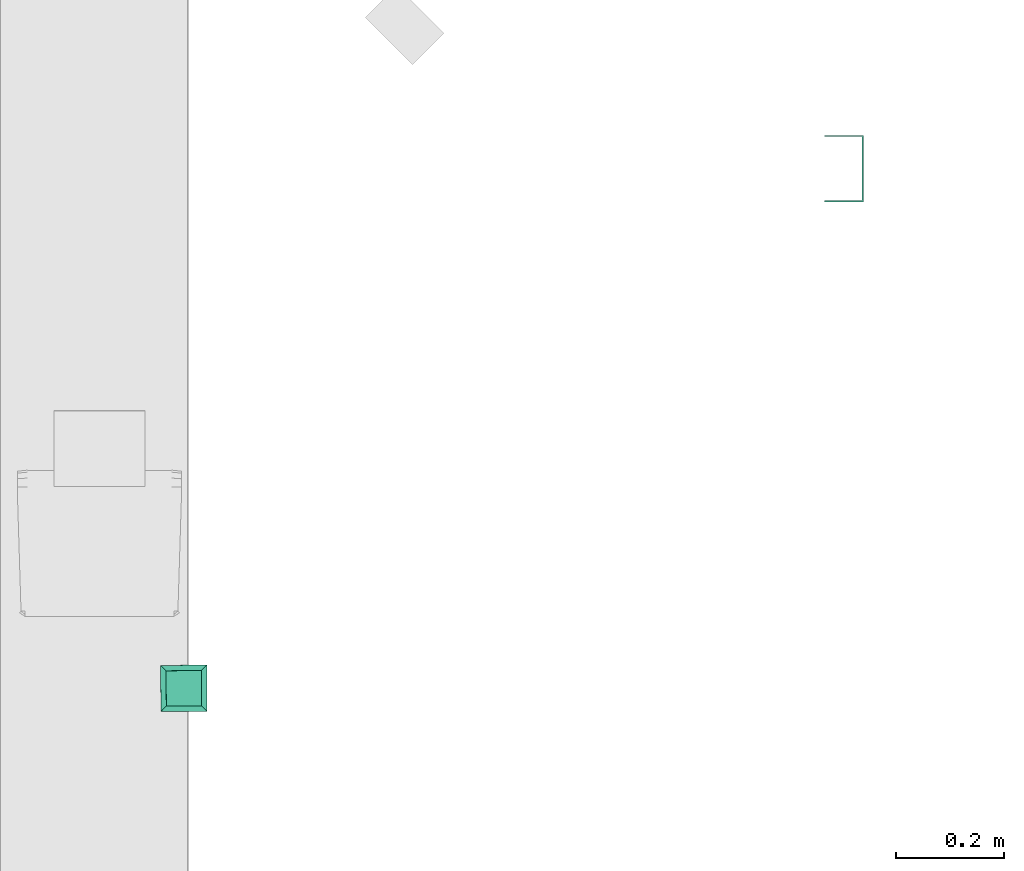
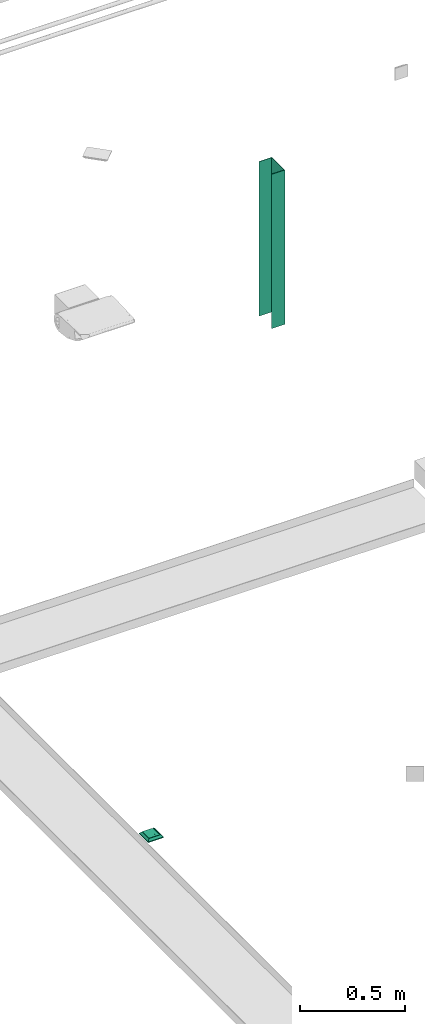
# One storey, part 22 of 24: 1 flow segment, 1 flow terminal.
"""IFC2X3 building model written with IfcOpenShell, lengths in millimetres."""

import ifcopenshell
import ifcopenshell.guid

model = None  # the IFC model being written
_history = None  # IfcOwnerHistory: only IFC2X3 demands one
_inside = {}  # id of a spatial element -> (the spatial element, [elements in it])
_under = {}  # id of a project, library or spatial element -> (it, [spatial elements below it])
_declared = {}  # id of a project -> (the project, [libraries it declares])
_typed = {}  # id of a type object -> (the type object, [elements of that type])
_made_of = {}  # id of a material, layer set ... -> (it, [elements and type objects made of it])


def new_model(schema):
    """Start an empty IFC model of exactly this schema.

    Asked for "IFC4X3", IfcOpenShell would pick the latest addendum, in which some entities
    have other attributes; the version numbers below select the first issue.
    IFC2X3 requires an IfcOwnerHistory on every rooted entity: one is made here for all.
    """
    global model, _history
    if schema == "IFC4X3":
        model = ifcopenshell.file(schema_version=(4, 3, 0, 0))
    else:
        model = ifcopenshell.file(schema=schema)
    _inside.clear()
    _under.clear()
    _declared.clear()
    _typed.clear()
    _made_of.clear()
    _history = None
    if model.schema == "IFC2X3":
        org = make("IfcOrganization", Name="unknown")
        user = make(
            "IfcPersonAndOrganization",
            ThePerson=make("IfcPerson", FamilyName="unknown"),
            TheOrganization=org,
        )
        app = make(
            "IfcApplication",
            ApplicationDeveloper=org,
            Version="unknown",
            ApplicationFullName="unknown",
            ApplicationIdentifier="unknown",
        )
        _history = make(
            "IfcOwnerHistory",
            OwningUser=user,
            OwningApplication=app,
            ChangeAction="ADDED",
            CreationDate=0,
        )
    return model


def make(cls, **values):
    """One entity of the class cls with the attributes given. An attribute that is None is left unset."""
    return model.create_entity(
        cls, **{name: value for name, value in values.items() if value is not None}
    )


def entity(cls, *values):
    """Any entity or typed value of the class cls, its attributes in the order of the schema. None: left unset."""
    e = model.create_entity(cls)
    for i, value in enumerate(values):
        if value is not None:
            e[i] = value
    return e


def rooted(cls, **values):
    """An entity with a GlobalId (a new one), such as an element, a storey or a relation."""
    return make(cls, GlobalId=ifcopenshell.guid.new(), OwnerHistory=_history, **values)


def si_unit(unit_type, name, prefix=None):
    """IfcSIUnit, for example si_unit("LENGTHUNIT", "METRE", prefix="MILLI")."""
    return make("IfcSIUnit", UnitType=unit_type, Prefix=prefix, Name=name)


def converted_unit(unit_type, name, factor, base, dimensions=None, offset=None):
    """IfcConversionBasedUnit, such as the inch: factor (a typed value) times the base unit."""
    return make(
        "IfcConversionBasedUnit"
        if offset is None
        else "IfcConversionBasedUnitWithOffset",
        ConversionOffset=offset,
        Dimensions=None
        if dimensions is None
        else entity("IfcDimensionalExponents", *dimensions),
        UnitType=unit_type,
        Name=name,
        ConversionFactor=make(
            "IfcMeasureWithUnit", ValueComponent=factor, UnitComponent=base
        ),
    )


def derived_unit(unit_type, elements):
    """IfcDerivedUnit: a product of units, each with its exponent."""
    return make(
        "IfcDerivedUnit",
        Elements=[
            make("IfcDerivedUnitElement", Unit=unit, Exponent=power)
            for unit, power in elements
        ],
        UnitType=unit_type,
    )


def assignment(units):
    """IfcUnitAssignment: the units of a project."""
    return None if units is None else make("IfcUnitAssignment", Units=units)


def point(xyz):
    """IfcCartesianPoint."""
    return None if xyz is None else make("IfcCartesianPoint", Coordinates=xyz)


def direction(xyz):
    """IfcDirection."""
    return None if xyz is None else make("IfcDirection", DirectionRatios=xyz)


def frame(location, z_axis=None, x_axis=None):
    """IfcAxis2Placement3D, a coordinate frame: its origin and axes. An axis left out is left unset."""
    return make(
        "IfcAxis2Placement3D",
        Location=point(location),
        Axis=direction(z_axis),
        RefDirection=direction(x_axis),
    )


def origin_with_axes():
    """The frame at (0, 0, 0) with the z axis (0, 0, 1) and the x axis (1, 0, 0) written out."""
    return frame((0.0, 0.0, 0.0), z_axis=(0.0, 0.0, 1.0), x_axis=(1.0, 0.0, 0.0))


def place(relative_to, where):
    """IfcLocalPlacement: puts the frame where relative to a parent placement (None: the world)."""
    return make(
        "IfcLocalPlacement", PlacementRelTo=relative_to, RelativePlacement=where
    )


def context(
    kind, dimensions, precision=None, world=None, true_north=None, identifier=None
):
    """IfcGeometricRepresentationContext, for example the 3D "Model" context."""
    return make(
        "IfcGeometricRepresentationContext",
        ContextIdentifier=identifier,
        ContextType=kind,
        CoordinateSpaceDimension=dimensions,
        Precision=precision,
        WorldCoordinateSystem=world,
        TrueNorth=true_north,
    )


def subcontext(parent, identifier, kind, view, scale=None):
    """IfcGeometricRepresentationSubContext, for example "Body" below "Model"."""
    return make(
        "IfcGeometricRepresentationSubContext",
        ContextIdentifier=identifier,
        ContextType=kind,
        ParentContext=parent,
        TargetScale=scale,
        TargetView=view,
    )


def project(units=None, contexts=None):
    """IfcProject with its units and contexts."""
    return rooted(
        "IfcProject",
        Name="project",
        RepresentationContexts=contexts,
        UnitsInContext=assignment(units),
    )


def spatial(cls, under=None, at=None, **own):
    """A site, building, storey or space (cls), placed at a placement, below another one or the project."""
    s = rooted(cls, ObjectPlacement=at, **own)
    if under is not None:
        _under.setdefault(under.id(), (under, []))[1].append(s)
    return s


def faces_of(points, faces, orient=None, outer=None):
    """IfcFace entities. A face is a list of loops; a loop is a list of indices into points, from 0.

    orient and outer hold one flag for each loop. By default every Orientation is true, the
    first loop of a face is its IfcFaceOuterBound and the others are IfcFaceBound.
    """
    made = []
    for i, loops in enumerate(faces):
        bounds = []
        for j, loop in enumerate(loops):
            is_outer = j == 0 if outer is None else outer[i][j]
            bounds.append(
                make(
                    "IfcFaceOuterBound" if is_outer else "IfcFaceBound",
                    Bound=make("IfcPolyLoop", Polygon=[points[k] for k in loop]),
                    Orientation=True if orient is None else orient[i][j],
                )
            )
        made.append(make("IfcFace", Bounds=bounds))
    return made


def open_shell(faces, orient=None, outer=None):
    """The faces of one IfcOpenShell. surface_model builds it on its shared points."""
    return ("IfcOpenShell", faces, orient, outer)


def surface_model(cls, points, shells):
    """IfcFaceBasedSurfaceModel or IfcShellBasedSurfaceModel (cls): surfaces that need not close."""
    shared = [point(p) for p in points]
    made = [make(c, CfsFaces=faces_of(shared, fs, o, b)) for c, fs, o, b in shells]
    if cls == "IfcFaceBasedSurfaceModel":
        return make(cls, FbsmFaces=made)
    return make(cls, SbsmBoundary=made)


def shape(context_of_items, identifier, shape_type, items):
    """IfcShapeRepresentation: the items that make up one representation, for example the "Body"."""
    return make(
        "IfcShapeRepresentation",
        ContextOfItems=context_of_items,
        RepresentationIdentifier=identifier,
        RepresentationType=shape_type,
        Items=items,
    )


def source(mapping_origin, context_of_items, identifier, shape_type, items):
    """IfcRepresentationMap: a shape defined once, which mapped items show again and again."""
    return make(
        "IfcRepresentationMap",
        MappingOrigin=mapping_origin,
        MappedRepresentation=shape(context_of_items, identifier, shape_type, items),
    )


def transform(
    local_origin,
    x_axis=None,
    y_axis=None,
    z_axis=None,
    scale=None,
    scale2=None,
    scale3=None,
    uniform=True,
):
    """IfcCartesianTransformationOperator3D, or its non-uniform kind. x_axis, y_axis, z_axis: its Axis1, 2, 3."""
    if uniform:
        return make(
            "IfcCartesianTransformationOperator3D",
            Axis1=direction(x_axis),
            Axis2=direction(y_axis),
            LocalOrigin=point(local_origin),
            Scale=scale,
            Axis3=direction(z_axis),
        )
    return make(
        "IfcCartesianTransformationOperator3DnonUniform",
        Axis1=direction(x_axis),
        Axis2=direction(y_axis),
        LocalOrigin=point(local_origin),
        Scale=scale,
        Axis3=direction(z_axis),
        Scale2=scale2,
        Scale3=scale3,
    )


def mapped(mapping_source, mapping_target):
    """IfcMappedItem: shows the shape of a source again, moved by a transform."""
    return make(
        "IfcMappedItem", MappingSource=mapping_source, MappingTarget=mapping_target
    )


def made_of(thing, what):
    """Note that an element or type object is made of a material, layer set ...; save() writes the relation."""
    if what is not None:
        _made_of.setdefault(what.id(), (what, []))[1].append(thing)
    return thing


def type_object(cls, material=None, **own):
    """A type object (cls), such as IfcWallType, which elements share."""
    return made_of(rooted(cls, **own), material)


def element(
    cls,
    number,
    at=None,
    inside=None,
    cuts=None,
    type_object=None,
    material=None,
    context=None,
    identifier="Body",
    shape_type=None,
    held_by="IfcProductDefinitionShape",
    body=None,
    shapes=None,
    **own,
):
    """One element of the class cls, such as IfcWall. Its Tag is "e" and its number.

    at: its placement. inside: the storey or other place that contains it. cuts: it is an
    opening in that element (IfcRelVoidsElement). A single representation is given by context,
    identifier, shape_type and body (its items); several are given by shapes. held_by: the class
    of the entity that holds the representations. save() writes the other relations.
    """
    e = rooted(cls, Tag="e%d" % number, ObjectPlacement=at, **own)
    if body is not None:
        shapes = [shape(context, identifier, shape_type, body)]
    if shapes is not None:
        e.Representation = make(held_by, Representations=shapes)
    if inside is not None:
        _inside.setdefault(inside.id(), (inside, []))[1].append(e)
    if cuts is not None:
        rooted(
            "IfcRelVoidsElement", RelatingBuildingElement=cuts, RelatedOpeningElement=e
        )
    if type_object is not None:
        _typed.setdefault(type_object.id(), (type_object, []))[1].append(e)
    return made_of(e, material)


def aggregate(whole, parts):
    """IfcRelAggregates: a whole, such as a stair, and the parts it consists of."""
    return rooted("IfcRelAggregates", RelatingObject=whole, RelatedObjects=parts)


def save(model, path):
    """Write the relations noted so far, then the file.

    IfcRelAggregates (storeys below a building ...), IfcRelContainedInSpatialStructure (elements
    in a storey), IfcRelDefinesByType, IfcRelAssociatesMaterial and IfcRelDeclares: one each for
    every whole, place, type object, material and project.
    """
    for whole, parts in _under.values():
        aggregate(whole, parts)
    for where, things in _inside.values():
        rooted(
            "IfcRelContainedInSpatialStructure",
            RelatedElements=things,
            RelatingStructure=where,
        )
    for kind, things in _typed.values():
        rooted("IfcRelDefinesByType", RelatedObjects=things, RelatingType=kind)
    for what, things in _made_of.values():
        rooted("IfcRelAssociatesMaterial", RelatedObjects=things, RelatingMaterial=what)
    for by, libraries in _declared.values():
        rooted("IfcRelDeclares", RelatingContext=by, RelatedDefinitions=libraries)
    model.write(path)


model = new_model("IFC2X3")

# Units and contexts
model_context = context("Model", 3, precision=0.01, world=frame((0.0, 4.29681676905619e-09, 0.0)), true_north=direction((4.01073788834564e-13, 1.0)))
plan_context = context("Plan", 3, precision=0.01, world=frame((0.0, 4.29681676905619e-09, 0.0)), true_north=direction((4.01073788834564e-13, 1.0)))
body_context = subcontext(model_context, "Body", "Model", "MODEL_VIEW")
ifc_project = project(units=[converted_unit("PLANEANGLEUNIT", "DEGREE", entity("IfcPositiveLengthMeasure", 0.0174532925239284), si_unit("PLANEANGLEUNIT", "RADIAN"), dimensions=[0, 0, 0, 0, 0, 0, 0]), si_unit("AREAUNIT", "SQUARE_METRE"), si_unit("LENGTHUNIT", "METRE", prefix="MILLI"), si_unit("MASSUNIT", "GRAM", prefix="KILO"), si_unit("POWERUNIT", "WATT"), si_unit("PRESSUREUNIT", "PASCAL"), si_unit("FORCEUNIT", "NEWTON", prefix="KILO"), si_unit("ELECTRICVOLTAGEUNIT", "VOLT"), si_unit("ELECTRICCURRENTUNIT", "AMPERE"), si_unit("THERMODYNAMICTEMPERATUREUNIT", "DEGREE_CELSIUS"), si_unit("TIMEUNIT", "SECOND"), si_unit("VOLUMEUNIT", "CUBIC_METRE"), derived_unit("LINEARVELOCITYUNIT", [(si_unit("LENGTHUNIT", "METRE"), 1), (si_unit("TIMEUNIT", "SECOND"), -1)]), derived_unit("VOLUMETRICFLOWRATEUNIT", [(si_unit("VOLUMEUNIT", "CUBIC_METRE"), 1), (si_unit("TIMEUNIT", "SECOND"), -1)]), derived_unit("THERMALTRANSMITTANCEUNIT", [(si_unit("POWERUNIT", "WATT"), 1), (si_unit("THERMODYNAMICTEMPERATUREUNIT", "KELVIN"), -1), (si_unit("AREAUNIT", "SQUARE_METRE"), -1)]), derived_unit("SOUNDPRESSUREUNIT", [(si_unit("PRESSUREUNIT", "PASCAL"), 1)])], contexts=[model_context, plan_context])

# Site, building, storey
site_placement = place(None, frame((0.0, -4.29681676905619e-09, 0.0), z_axis=(0.0, 0.0, 1.0), x_axis=(1.0, 0.0, 0.0)))
site = spatial("IfcSite", under=ifc_project, at=site_placement, Name="ENGM", CompositionType="ELEMENT")
building_placement = place(site_placement, frame((0.0, 4.29681676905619e-09, 0.0), z_axis=(0.0, 0.0, 1.0), x_axis=(1.0, 0.0, 0.0)))
building = spatial("IfcBuilding", under=site, at=building_placement, Name="TH", CompositionType="ELEMENT")
storey_placement = place(building_placement, frame((0.0, 0.0, 210200.0), z_axis=(0.0, 0.0, 1.0), x_axis=(1.0, 0.0, 0.0)))
storey = spatial("IfcBuildingStorey", under=building, at=storey_placement, Name="Nivå F - 0,7 m", CompositionType="ELEMENT", Elevation=210200.0)

# Flow segment
cable_carrier_segment_type = type_object("IfcCableCarrierSegmentType", Name="Veggkanal", PredefinedType="CABLETRAYSEGMENT")
shared_shape_1 = source(origin_with_axes(), body_context, "Body", "SurfaceModel", [
    surface_model("IfcShellBasedSurfaceModel", [(0.0, -58.96, -33.46), (0.0, -61.5, 36.0), (0.0, -58.96, 36.0), (0.0, 58.96, -33.46), (0.0, 58.96, 36.0), (0.0, 61.5, 36.0), (0.0, -61.5, -36.0), (0.0, 61.5, -36.0), (900.0, -58.96, 36.0), (900.0, -61.5, 36.0), (900.0, -58.96, -33.46), (900.0, 61.5, 36.0), (900.0, 58.96, 36.0), (900.0, 58.96, -33.46), (900.0, -61.5, -36.0), (900.0, 61.5, -36.0)], [open_shell([[[0, 1, 2]], [[3, 4, 5]], [[3, 6, 0]], [[1, 0, 6]], [[5, 7, 3]], [[6, 3, 7]], [[8, 9, 10]], [[11, 12, 13]], [[10, 14, 13]], [[14, 10, 9]], [[13, 15, 11]], [[15, 13, 14]], [[1, 6, 9]], [[14, 9, 6]], [[2, 1, 9]], [[9, 8, 2]], [[0, 2, 8]], [[8, 10, 0]], [[3, 0, 13]], [[10, 13, 0]], [[4, 3, 13]], [[13, 12, 4]], [[5, 4, 12]], [[12, 11, 5]], [[7, 5, 15]], [[11, 15, 5]], [[6, 7, 15]], [[15, 14, 6]]])]),
])
flow_segment_placement = place(storey_placement, frame((900872.37791, 481236.67065, 2000.0), z_axis=(-1.0, 0.0, 0.0), x_axis=(0.0, 0.0, 1.0)))
element("IfcFlowSegment", 1, at=flow_segment_placement, inside=storey, type_object=cable_carrier_segment_type, Name="Veggkanal", context=body_context, shape_type="MappedRepresentation", body=[
    mapped(shared_shape_1, transform((0.0, 0.0, 0.0), scale=1.0)),
])

# Flow terminal
outlet_type = type_object("IfcOutletType", Name="Datauttak dobbel Gulv - IKT", PredefinedType="COMMUNICATIONSOUTLET")
shared_shape_2 = source(origin_with_axes(), body_context, "Body", "SurfaceModel", [
    surface_model("IfcShellBasedSurfaceModel", [(-42.5, 42.4761, 7.09014), (-32.5, 32.48658, 17.10061), (42.5, 42.4761, 7.09014), (32.5, 32.48658, 17.10061), (42.5, 42.33453, 6.94887), (32.5, 32.34501, 16.95933), (-32.5, 32.34501, 16.95933), (-42.5, 42.33453, 6.94887), (-42.5, -42.524, 7.03773), (-32.5, -32.51353, 17.02725), (32.5, -32.51353, 17.02725), (42.5, -42.524, 7.03773), (42.5, -42.66527, 7.1793), (32.5, -32.65481, 17.16882), (-42.5, -42.66527, 7.1793), (-32.5, -32.65481, 17.16882), (32.57071, -32.5841, 17.16875), (42.57071, -42.59456, 7.17922), (32.57071, 32.41587, 17.10068), (42.57071, 42.40539, 7.09021), (32.42929, 32.41572, 16.95926), (42.42929, 42.40524, 6.94879), (32.42929, -32.58424, 17.02733), (42.42929, -42.59471, 7.0378), (-32.42929, -32.58424, 17.02733), (-42.42929, -42.59471, 7.0378), (-32.42929, 32.41572, 16.95926), (-42.42929, 42.40524, 6.94879), (-32.57071, 32.41587, 17.10068), (-42.57071, 42.40539, 7.09021), (-42.57071, -42.59456, 7.17922), (-32.57071, -32.5841, 17.16875), (-42.4, -42.59463, 7.10851), (-42.4, -42.59987, 2.10852), (-42.4, 42.40532, 7.0195), (-42.4, 42.40008, 2.01951), (-42.6, 42.40532, 7.0195), (-42.6, 42.40008, 2.01951), (-42.6, -42.59463, 7.10851), (-42.6, -42.59987, 2.10852), (42.5, -42.69987, 2.10862), (42.5, -42.69464, 7.10862), (-42.5, -42.69987, 2.10862), (-42.5, -42.69464, 7.10862), (-42.5, -42.49987, 2.10841), (-42.5, -42.49464, 7.10841), (42.5, -42.49987, 2.10841), (42.5, -42.49464, 7.10841), (42.6, -42.59463, 7.10851), (42.6, -42.59987, 2.10852), (42.6, 42.40532, 7.0195), (42.6, 42.40008, 2.01951), (42.4, 42.40532, 7.0195), (42.4, 42.40008, 2.01951), (42.4, -42.59463, 7.10851), (42.4, -42.59987, 2.10852), (42.5, -42.59998, 2.00852), (-42.5, -42.59998, 2.00852), (-42.5, 42.39998, 1.91951), (42.5, 42.39998, 1.91951), (42.5, 42.40019, 2.11951), (-42.5, 42.40019, 2.11951), (-42.5, -42.59977, 2.20852), (42.5, -42.59977, 2.20852), (42.5, 42.30008, 2.01961), (42.5, 42.30532, 7.01961), (-42.5, 42.30008, 2.01961), (-42.5, 42.30532, 7.01961), (-42.5, 42.50008, 2.0194), (-42.5, 42.50532, 7.0194), (42.5, 42.50008, 2.0194), (42.5, 42.50532, 7.0194), (32.5, -32.58427, 16.99804), (-32.5, -32.58427, 16.99804), (-32.5, 32.41569, 16.92997), (32.5, 32.41569, 16.92997), (32.5, 32.4159, 17.12997), (-32.5, 32.4159, 17.12997), (32.5, -32.58406, 17.19804), (-32.5, -32.58406, 17.19804), (17.5, 0.41781, 18.97348), (2.5, 0.41781, 18.97348), (2.5, 15.4178, 18.95777), (17.5, 15.4178, 18.95777), (17.5, 15.41801, 19.15777), (2.5, 15.41801, 19.15777), (17.5, 0.41802, 19.17348), (2.5, 0.41802, 19.17348), (-2.5, 0.41781, 18.97348), (-17.5, 0.41781, 18.97348), (-17.5, 15.4178, 18.95777), (-2.5, 15.4178, 18.95777), (-2.5, 15.41801, 19.15777), (-17.5, 15.41801, 19.15777), (-2.5, 0.41802, 19.17348), (-17.5, 0.41802, 19.17348), (32.5, 32.41789, 19.02997), (32.5, 32.41579, 17.02997), (-32.5, 32.41789, 19.02997), (-32.5, 32.41579, 17.02997), (-32.5, 27.41789, 19.0352), (-32.5, 27.4158, 17.03521), (32.5, 27.41789, 19.0352), (32.5, 27.4158, 17.03521), (32.5, 17.4179, 19.04568), (32.5, 17.4158, 17.04568), (-32.5, 17.4179, 19.04568), (-32.5, 17.4158, 17.04568), (-32.5, -32.58208, 19.09803), (-32.5, -32.58417, 17.09804), (32.5, -32.58208, 19.09803), (32.5, -32.58417, 17.09804)], [open_shell([[[0, 1, 2]], [[3, 2, 1]], [[4, 5, 6]], [[6, 7, 4]], [[3, 1, 6]], [[6, 5, 3]], [[2, 3, 4]], [[5, 4, 3]], [[0, 2, 4]], [[4, 7, 0]], [[1, 0, 6]], [[7, 6, 0]], [[8, 9, 10]], [[10, 11, 8]], [[12, 13, 14]], [[15, 14, 13]], [[10, 9, 13]], [[15, 13, 9]], [[11, 10, 13]], [[13, 12, 11]], [[8, 11, 12]], [[12, 14, 8]], [[9, 8, 14]], [[14, 15, 9]], [[16, 17, 18]], [[19, 18, 17]], [[20, 21, 22]], [[23, 22, 21]], [[19, 17, 23]], [[23, 21, 19]], [[18, 19, 21]], [[21, 20, 18]], [[16, 18, 20]], [[20, 22, 16]], [[17, 16, 22]], [[22, 23, 17]], [[24, 25, 26]], [[27, 26, 25]], [[28, 29, 30]], [[30, 31, 28]], [[27, 25, 30]], [[30, 29, 27]], [[26, 27, 28]], [[29, 28, 27]], [[24, 26, 28]], [[28, 31, 24]], [[25, 24, 31]], [[31, 30, 25]], [[32, 33, 34]], [[35, 34, 33]], [[36, 37, 38]], [[39, 38, 37]], [[35, 33, 39]], [[39, 37, 35]], [[34, 35, 37]], [[37, 36, 34]], [[32, 34, 36]], [[36, 38, 32]], [[33, 32, 39]], [[38, 39, 32]], [[40, 41, 42]], [[43, 42, 41]], [[44, 45, 46]], [[47, 46, 45]], [[41, 40, 46]], [[46, 47, 41]], [[40, 42, 44]], [[44, 46, 40]], [[42, 43, 45]], [[45, 44, 42]], [[43, 41, 47]], [[47, 45, 43]], [[48, 49, 50]], [[51, 50, 49]], [[52, 53, 54]], [[55, 54, 53]], [[51, 49, 55]], [[55, 53, 51]], [[50, 51, 53]], [[53, 52, 50]], [[48, 50, 52]], [[52, 54, 48]], [[49, 48, 55]], [[54, 55, 48]], [[56, 57, 58]], [[58, 59, 56]], [[60, 61, 62]], [[62, 63, 60]], [[58, 57, 62]], [[62, 61, 58]], [[59, 58, 61]], [[61, 60, 59]], [[56, 59, 60]], [[60, 63, 56]], [[57, 56, 63]], [[63, 62, 57]], [[64, 65, 66]], [[67, 66, 65]], [[68, 69, 70]], [[71, 70, 69]], [[65, 64, 70]], [[70, 71, 65]], [[64, 66, 68]], [[68, 70, 64]], [[66, 67, 69]], [[69, 68, 66]], [[67, 65, 71]], [[71, 69, 67]], [[72, 73, 74]], [[74, 75, 72]], [[76, 77, 78]], [[79, 78, 77]], [[74, 73, 79]], [[79, 77, 74]], [[75, 74, 77]], [[77, 76, 75]], [[72, 75, 78]], [[76, 78, 75]], [[73, 72, 78]], [[78, 79, 73]], [[80, 81, 82]], [[82, 83, 80]], [[84, 85, 86]], [[87, 86, 85]], [[82, 81, 85]], [[87, 85, 81]], [[83, 82, 85]], [[85, 84, 83]], [[80, 83, 86]], [[84, 86, 83]], [[81, 80, 86]], [[86, 87, 81]], [[88, 89, 90]], [[90, 91, 88]], [[92, 93, 94]], [[95, 94, 93]], [[90, 89, 93]], [[95, 93, 89]], [[91, 90, 92]], [[93, 92, 90]], [[88, 91, 94]], [[92, 94, 91]], [[89, 88, 94]], [[94, 95, 89]], [[96, 97, 98]], [[99, 98, 97]], [[100, 101, 102]], [[103, 102, 101]], [[99, 97, 103]], [[103, 101, 99]], [[98, 99, 101]], [[101, 100, 98]], [[96, 98, 100]], [[100, 102, 96]], [[97, 96, 103]], [[102, 103, 96]], [[104, 105, 106]], [[107, 106, 105]], [[108, 109, 110]], [[111, 110, 109]], [[107, 105, 111]], [[111, 109, 107]], [[106, 107, 109]], [[109, 108, 106]], [[104, 106, 108]], [[108, 110, 104]], [[105, 104, 110]], [[110, 111, 105]]])]),
])
flow_terminal_placement = place(storey_placement, frame((899655.62689, 480278.57613, 0.0), z_axis=(0.0, 0.0, 1.0), x_axis=(0.00664599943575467, -0.999977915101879, 0.0)))
element("IfcFlowTerminal", 2, at=flow_terminal_placement, inside=storey, type_object=outlet_type, Name="Datauttak dobbel Gulv - IKT", context=body_context, shape_type="MappedRepresentation", body=[
    mapped(shared_shape_2, transform((0.0, 0.0, 0.0), scale=1.0)),
])

save(model, "model.ifc")
